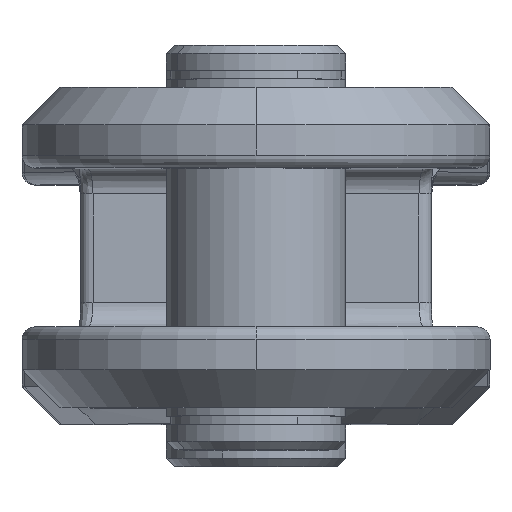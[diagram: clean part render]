
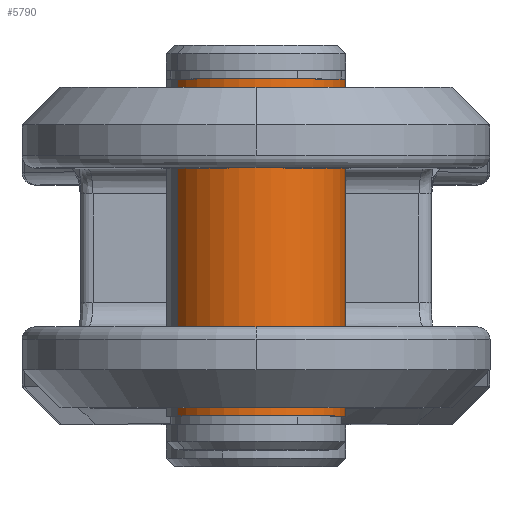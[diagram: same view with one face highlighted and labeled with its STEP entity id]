
A CAD part, top view. The second image highlights one B-rep face of the part: STEP entity #5790.
In plain terms, the highlighted cylindrical face has radius 21.5 mm (diameter 43 mm), a partial arc.
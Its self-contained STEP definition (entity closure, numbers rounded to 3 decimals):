
#15 = CARTESIAN_POINT ( 'NONE',  ( 8.1, 0., -21.5 ) ) ;
#60 = VECTOR ( 'NONE', #13246, 1000. ) ;
#189 = ORIENTED_EDGE ( 'NONE', *, *, #8882, .F. ) ;
#402 = CARTESIAN_POINT ( 'NONE',  ( 88.7, 0., -21.5 ) ) ;
#667 = VERTEX_POINT ( 'NONE', #5335 ) ;
#733 = ORIENTED_EDGE ( 'NONE', *, *, #12933, .T. ) ;
#1345 = CARTESIAN_POINT ( 'NONE',  ( 8.1, 0., 0. ) ) ;
#1486 = CARTESIAN_POINT ( 'NONE',  ( 88.7, 0., 0. ) ) ;
#1500 = CARTESIAN_POINT ( 'NONE',  ( 0., 0., -21.5 ) ) ;
#2092 = VERTEX_POINT ( 'NONE', #5968 ) ;
#2373 = AXIS2_PLACEMENT_3D ( 'NONE', #1345, #8930, #2433 ) ;
#2399 = DIRECTION ( 'NONE',  ( 0., 0., 1. ) ) ;
#2433 = DIRECTION ( 'NONE',  ( 0., -1., 0. ) ) ;
#2572 = DIRECTION ( 'NONE',  ( 0., -1., 0. ) ) ;
#3143 = FACE_OUTER_BOUND ( 'NONE', #12082, .T. ) ;
#3477 = DIRECTION ( 'NONE',  ( -1., 0., 0. ) ) ;
#5335 = CARTESIAN_POINT ( 'NONE',  ( 8.1, 0., 21.5 ) ) ;
#5700 = CYLINDRICAL_SURFACE ( 'NONE', #8911, 21.5 ) ;
#5735 = CARTESIAN_POINT ( 'NONE',  ( 0., 0., 21.5 ) ) ;
#5790 = ADVANCED_FACE ( 'NONE', ( #3143 ), #5700, .T. ) ;
#5843 = LINE ( 'NONE', #5735, #60 ) ;
#5884 = VECTOR ( 'NONE', #9073, 1000. ) ;
#5968 = CARTESIAN_POINT ( 'NONE',  ( 88.7, 0., 21.5 ) ) ;
#6999 = ORIENTED_EDGE ( 'NONE', *, *, #11134, .F. ) ;
#7800 = EDGE_CURVE ( 'NONE', #2092, #667, #5843, .T. ) ;
#8570 = CIRCLE ( 'NONE', #13116, 21.5 ) ;
#8761 = LINE ( 'NONE', #1500, #5884 ) ;
#8882 = EDGE_CURVE ( 'NONE', #10471, #667, #9040, .T. ) ;
#8911 = AXIS2_PLACEMENT_3D ( 'NONE', #9975, #3477, #2399 ) ;
#8930 = DIRECTION ( 'NONE',  ( -1., 0., 0. ) ) ;
#9040 = CIRCLE ( 'NONE', #2373, 21.5 ) ;
#9059 = DIRECTION ( 'NONE',  ( -1., 0., 0. ) ) ;
#9073 = DIRECTION ( 'NONE',  ( -1., 0., 0. ) ) ;
#9457 = ORIENTED_EDGE ( 'NONE', *, *, #7800, .T. ) ;
#9975 = CARTESIAN_POINT ( 'NONE',  ( 0., 0., 0. ) ) ;
#10471 = VERTEX_POINT ( 'NONE', #15 ) ;
#11134 = EDGE_CURVE ( 'NONE', #13655, #10471, #8761, .T. ) ;
#12082 = EDGE_LOOP ( 'NONE', ( #6999, #733, #9457, #189 ) ) ;
#12933 = EDGE_CURVE ( 'NONE', #13655, #2092, #8570, .T. ) ;
#13116 = AXIS2_PLACEMENT_3D ( 'NONE', #1486, #9059, #2572 ) ;
#13246 = DIRECTION ( 'NONE',  ( -1., 0., 0. ) ) ;
#13655 = VERTEX_POINT ( 'NONE', #402 ) ;
